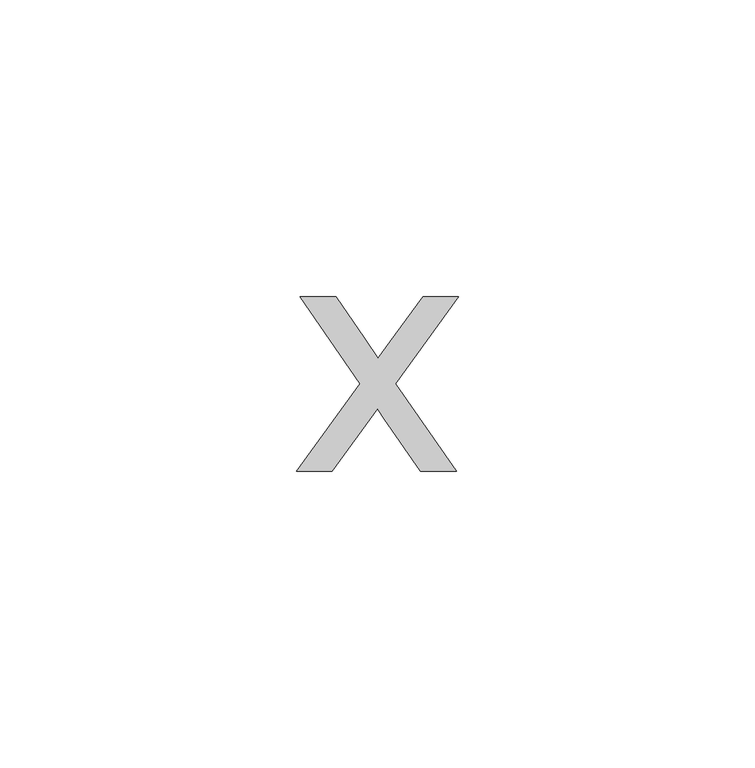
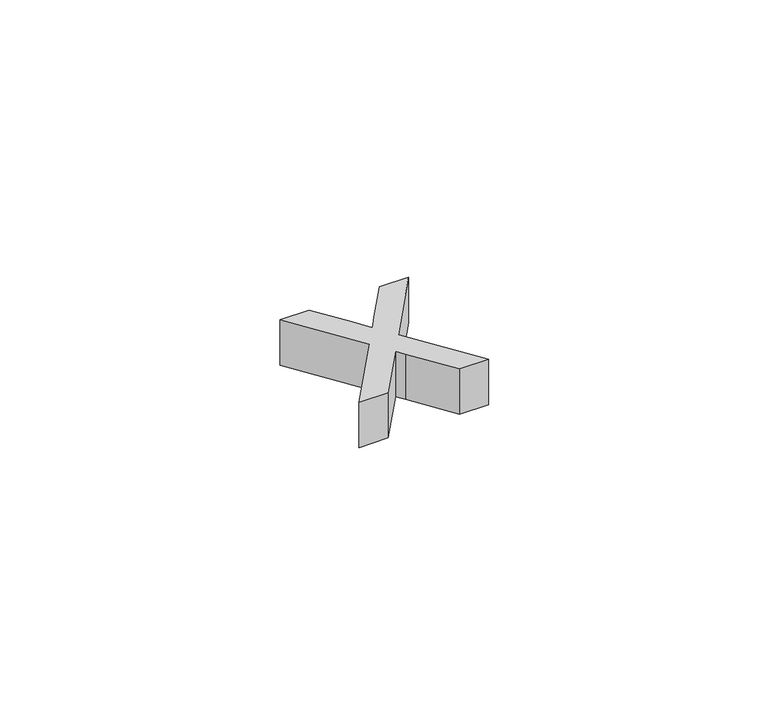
"""IFC4 building model written with IfcOpenShell, lengths in millimetres: pipe fitting geometry, NLRS_52_PIF_UN_HDPE weld_Akatherm : ringseal or non-welded."""

from ifc_helpers import new_model, si_unit, frame, origin, place, context, project, spatial, polyline, outline, extrude, source, transform, mapped, element, save


def pipe_fitting_81bb528a(model_context):
    return source(origin(), model_context, "Body", "SweptSolid", [
        extrude(outline(polyline([(30.9355442, -140.0), (41.6678883, -125.166998), (31.5633962, -110.4909589), (37.6064711, -110.4909589), (42.4821338, -117.5542932), (44.7580971, -120.8897566), (46.7299446, -118.1625248), (52.2825102, -110.4909589), (58.3255851, -110.4909589), (47.7109632, -125.166998), (57.9331776, -140.0), (51.8901027, -140.0), (45.7391157, -131.0825404), (44.6109443, -129.4540495), (36.9786192, -140.0), (30.9355442, -140.0)])), frame((0.0, 0.0, -15.0), z_axis=(0.0, 0.0, 1.0), x_axis=(1.0, 0.0, 0.0)), (0.0, 0.0, 1.0), 10.0),
    ])


if __name__ == "__main__":
    model = new_model("IFC4")
    model_context = context("Model", 3, world=origin())
    ifc_project = project(units=[si_unit("LENGTHUNIT", "METRE", prefix="MILLI")], contexts=[model_context])
    site = spatial("IfcSite", under=ifc_project)
    building = spatial("IfcBuilding", under=site)
    placement = place(None, origin())
    pipe_fitting_shape = pipe_fitting_81bb528a(model_context)
    element("IfcPipeFitting", 1, ObjectType="NLRS_52_PIF_UN_HDPE weld_Akatherm : ringseal or non-welded", at=placement, inside=building, context=model_context, shape_type="MappedRepresentation", body=[
        mapped(pipe_fitting_shape, transform((0.0, 0.0, 0.0), x_axis=(1.0, 0.0, 0.0), y_axis=(0.0, 1.0, 0.0), z_axis=(0.0, 0.0, 1.0))),
    ])
    save(model, "model.ifc")
